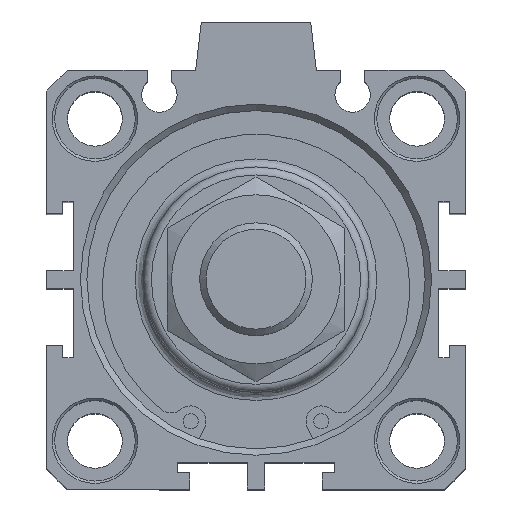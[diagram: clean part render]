
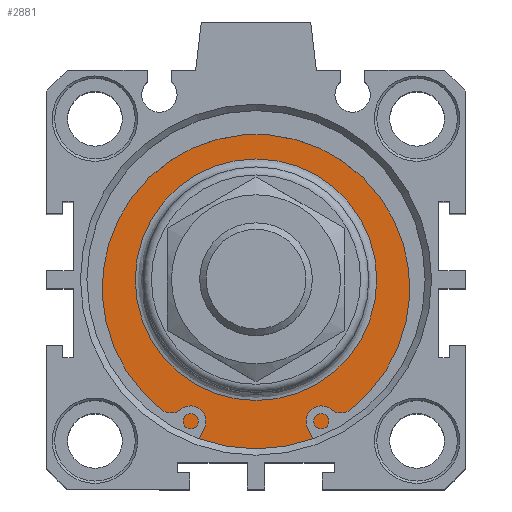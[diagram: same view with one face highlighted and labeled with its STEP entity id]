
A CAD part, top view. The second image highlights one B-rep face of the part: STEP entity #2881.
In plain terms, the highlighted planar face has unit normal (0, 0, 1).
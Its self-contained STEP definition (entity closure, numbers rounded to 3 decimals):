
#2830=CARTESIAN_POINT('',(-1.555,16.077,62.4));
#2831=VERTEX_POINT('',#2830);
#2832=CARTESIAN_POINT('',(-1.555,1.077,62.4));
#2833=DIRECTION('',(0.0,0.0,1.0));
#2834=DIRECTION('',(0.0,-1.0,0.0));
#2835=AXIS2_PLACEMENT_3D('',#2832,#2833,#2834);
#2836=CIRCLE('',#2835,15.);
#2837=EDGE_CURVE('',#2831,#2831,#2836,.T.);
#2862=CARTESIAN_POINT('',(-1.555,18.577,62.4));
#2863=DIRECTION('',(0.0,0.0,1.0));
#2864=DIRECTION('',(1.0,0.0,0.0));
#2865=AXIS2_PLACEMENT_3D('',#2862,#2863,#2864);
#2866=PLANE('',#2865);
#2867=CARTESIAN_POINT('',(-1.555,22.077,62.4));
#2868=VERTEX_POINT('',#2867);
#2869=CARTESIAN_POINT('',(-1.555,1.077,62.4));
#2870=DIRECTION('',(0.0,0.0,-1.0));
#2871=DIRECTION('',(0.0,1.0,0.0));
#2872=AXIS2_PLACEMENT_3D('',#2869,#2870,#2871);
#2873=CIRCLE('',#2872,21.);
#2874=EDGE_CURVE('',#2868,#2868,#2873,.T.);
#2875=ORIENTED_EDGE('',*,*,#2874,.F.);
#2876=EDGE_LOOP('',(#2875));
#2877=FACE_OUTER_BOUND('',#2876,.T.);
#2878=ORIENTED_EDGE('',*,*,#2837,.F.);
#2879=EDGE_LOOP('',(#2878));
#2880=FACE_BOUND('',#2879,.T.);
#2881=ADVANCED_FACE('',(#2877,#2880),#2866,.T.);
